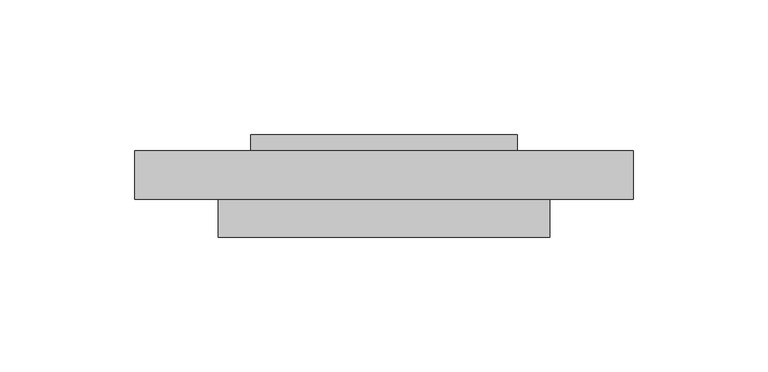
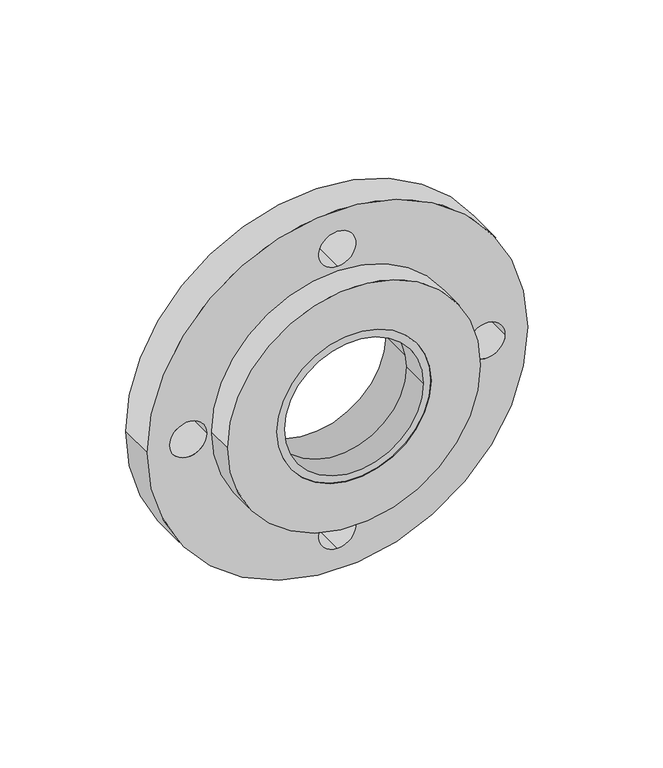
"""IFC4 building model written with IfcOpenShell, lengths in millimetres: pipe fitting geometry, EGB_VASEN_ PPR_Valona WXR140 : Valona WXR140 + Brida WXR900."""

from ifc_helpers import new_model, si_unit, point, frame, frame_2d, origin, origin_2d, place, context, project, spatial, circle_curve, trimmed, segment, composite_curve, outline, extrude, source, transform, mapped, element, save


def pipe_fitting_5ae3d727(model_context):
    return source(origin(), model_context, "Body", "SweptSolid", [
        extrude(outline(composite_curve([segment(trimmed(circle_curve(origin_2d(), 92.5), [point((0.0, -92.5))], [point((0.0, 92.5))], False, "CARTESIAN"), True, "CONTINUOUS"), segment(trimmed(circle_curve(origin_2d(), 92.5), [point((0.0, 92.5))], [point((0.0, -92.5))], False, "CARTESIAN"), True, "CONTINUOUS")], self_intersect=False), holes=[composite_curve([segment(trimmed(circle_curve(origin_2d(), 47.5), [point((0.0, -47.5))], [point((0.0, 47.5))], True, "CARTESIAN"), True, "CONTINUOUS"), segment(trimmed(circle_curve(origin_2d(), 47.5), [point((0.0, 47.5))], [point((0.0, -47.5))], True, "CARTESIAN"), True, "CONTINUOUS")], self_intersect=False), composite_curve([segment(trimmed(circle_curve(frame_2d((0.0, -72.5)), 9.0), [point((0.0, -63.5))], [point((0.0, -81.5))], True, "CARTESIAN"), True, "CONTINUOUS"), segment(trimmed(circle_curve(frame_2d((0.0, -72.5)), 9.0), [point((0.0, -81.5))], [point((0.0, -63.5))], True, "CARTESIAN"), True, "CONTINUOUS")], self_intersect=False), composite_curve([segment(trimmed(circle_curve(frame_2d((72.5, 0.0)), 9.0), [point((63.5, 0.0))], [point((81.5, 0.0))], True, "CARTESIAN"), True, "CONTINUOUS"), segment(trimmed(circle_curve(frame_2d((72.5, 0.0)), 9.0), [point((81.5, 0.0))], [point((63.5, 0.0))], True, "CARTESIAN"), True, "CONTINUOUS")], self_intersect=False), composite_curve([segment(trimmed(circle_curve(frame_2d((-72.5, 0.0)), 9.0), [point((-63.5, 0.0))], [point((-81.5, 0.0))], True, "CARTESIAN"), True, "CONTINUOUS"), segment(trimmed(circle_curve(frame_2d((-72.5, 0.0)), 9.0), [point((-81.5, 0.0))], [point((-63.5, 0.0))], True, "CARTESIAN"), True, "CONTINUOUS")], self_intersect=False), composite_curve([segment(trimmed(circle_curve(frame_2d((0.0, 72.5)), 9.0), [point((0.0, 63.5))], [point((0.0, 81.5))], True, "CARTESIAN"), True, "CONTINUOUS"), segment(trimmed(circle_curve(frame_2d((0.0, 72.5)), 9.0), [point((0.0, 81.5))], [point((0.0, 63.5))], True, "CARTESIAN"), True, "CONTINUOUS")], self_intersect=False)]), frame((0.0, 0.0, 0.0), z_axis=(0.0, 1.0, 0.0), x_axis=(0.0, 0.0, 1.0)), (0.0, 0.0, 1.0), 18.0),
        extrude(outline(composite_curve([segment(trimmed(circle_curve(origin_2d(), 49.5), [point((0.0, -49.5))], [point((0.0, 49.5))], False, "CARTESIAN"), True, "CONTINUOUS"), segment(trimmed(circle_curve(origin_2d(), 49.5), [point((0.0, 49.5))], [point((0.0, -49.5))], False, "CARTESIAN"), True, "CONTINUOUS")], self_intersect=False), holes=[composite_curve([segment(trimmed(circle_curve(origin_2d(), 37.5), [point((0.0, -37.5))], [point((0.0, 37.5))], True, "CARTESIAN"), True, "CONTINUOUS"), segment(trimmed(circle_curve(origin_2d(), 37.5), [point((0.0, 37.5))], [point((0.0, -37.5))], True, "CARTESIAN"), True, "CONTINUOUS")], self_intersect=False)]), frame((0.0, 0.0, 0.0), z_axis=(0.0, 1.0, 0.0), x_axis=(0.0, 0.0, 1.0)), (0.0, 0.0, 1.0), 24.0),
        extrude(outline(composite_curve([segment(trimmed(circle_curve(origin_2d(), 61.5), [point((0.0, -61.5))], [point((0.0, 61.5))], False, "CARTESIAN"), True, "CONTINUOUS"), segment(trimmed(circle_curve(origin_2d(), 61.5), [point((0.0, 61.5))], [point((0.0, -61.5))], False, "CARTESIAN"), True, "CONTINUOUS")], self_intersect=False), holes=[composite_curve([segment(trimmed(circle_curve(origin_2d(), 37.5), [point((0.0, -37.5))], [point((0.0, 37.5))], True, "CARTESIAN"), True, "CONTINUOUS"), segment(trimmed(circle_curve(origin_2d(), 37.5), [point((0.0, 37.5))], [point((0.0, -37.5))], True, "CARTESIAN"), True, "CONTINUOUS")], self_intersect=False)]), frame((0.0, -14.0, 0.0), z_axis=(0.0, 1.0, 0.0), x_axis=(0.0, 0.0, 1.0)), (0.0, 0.0, 1.0), 14.0),
        extrude(outline(composite_curve([segment(trimmed(circle_curve(origin_2d(), 37.5), [point((0.0, -37.5))], [point((0.0, 37.5))], False, "CARTESIAN"), True, "CONTINUOUS"), segment(trimmed(circle_curve(origin_2d(), 37.5), [point((0.0, 37.5))], [point((0.0, -37.5))], False, "CARTESIAN"), True, "CONTINUOUS")], self_intersect=False), holes=[composite_curve([segment(trimmed(circle_curve(origin_2d(), 33.75), [point((0.0, -33.75))], [point((0.0, 33.75))], True, "CARTESIAN"), True, "CONTINUOUS"), segment(trimmed(circle_curve(origin_2d(), 33.75), [point((0.0, 33.75))], [point((0.0, -33.75))], True, "CARTESIAN"), True, "CONTINUOUS")], self_intersect=False)]), frame((0.0, -14.0, 0.0), z_axis=(0.0, 1.0, 0.0), x_axis=(0.0, 0.0, 1.0)), (0.0, 0.0, 1.0), 14.0),
    ])


if __name__ == "__main__":
    model = new_model("IFC4")
    model_context = context("Model", 3, world=origin())
    ifc_project = project(units=[si_unit("LENGTHUNIT", "METRE", prefix="MILLI")], contexts=[model_context])
    site = spatial("IfcSite", under=ifc_project)
    building = spatial("IfcBuilding", under=site)
    placement = place(None, origin())
    pipe_fitting_shape = pipe_fitting_5ae3d727(model_context)
    element("IfcPipeFitting", 1, ObjectType="EGB_VASEN_ PPR_Valona WXR140 : Valona WXR140 + Brida WXR900", at=placement, inside=building, context=model_context, shape_type="MappedRepresentation", body=[
        mapped(pipe_fitting_shape, transform((0.0, 0.0, 0.0), x_axis=(1.0, 0.0, 0.0), y_axis=(0.0, 1.0, 0.0), z_axis=(0.0, 0.0, 1.0))),
    ])
    save(model, "model.ifc")
